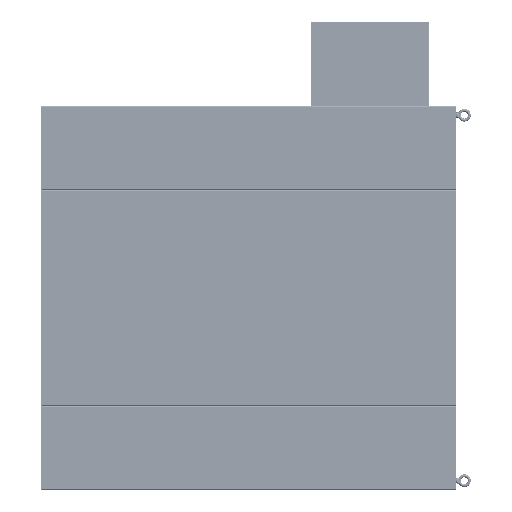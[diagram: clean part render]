
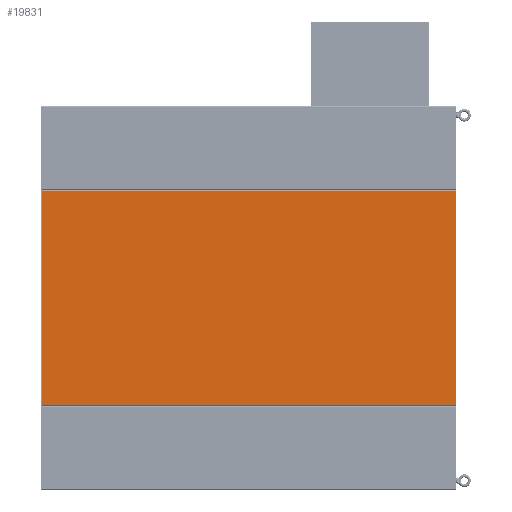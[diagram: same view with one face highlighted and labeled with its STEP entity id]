
A CAD part, left-side view. The second image highlights one B-rep face of the part: STEP entity #19831.
In plain terms, the highlighted planar face has unit normal (-1, 0, 0) as drawn and (0, 0, -1) by its records, which use the part's own axes.
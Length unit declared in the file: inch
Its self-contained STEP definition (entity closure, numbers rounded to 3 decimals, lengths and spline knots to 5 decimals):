
#19367=DIRECTION('',(0.,-1.,0.));
#19368=VECTOR('',#19367,83.75);
#19369=CARTESIAN_POINT('',(-21.625,0.,-0.125));
#19370=LINE('',#19369,#19368);
#19382=DIRECTION('',(1.,0.,0.));
#19383=VECTOR('',#19382,43.25);
#19384=CARTESIAN_POINT('',(-21.625,-83.75,-0.125));
#19385=LINE('',#19384,#19383);
#19389=DIRECTION('',(-1.,0.,0.));
#19390=VECTOR('',#19389,43.25);
#19391=CARTESIAN_POINT('',(21.625,0.,-0.125));
#19392=LINE('',#19391,#19390);
#19425=DIRECTION('',(0.,1.,0.));
#19426=VECTOR('',#19425,83.75);
#19427=CARTESIAN_POINT('',(21.625,-83.75,-0.125));
#19428=LINE('',#19427,#19426);
#19632=CARTESIAN_POINT('',(21.625,0.,-0.125));
#19633=VERTEX_POINT('',#19632);
#19634=CARTESIAN_POINT('',(21.625,-83.75,-0.125));
#19635=VERTEX_POINT('',#19634);
#19648=CARTESIAN_POINT('',(-21.625,-83.75,-0.125));
#19649=VERTEX_POINT('',#19648);
#19650=CARTESIAN_POINT('',(-21.625,0.,-0.125));
#19651=VERTEX_POINT('',#19650);
#19817=CARTESIAN_POINT('',(0.,0.,-0.125));
#19818=DIRECTION('',(0.,0.,1.));
#19819=DIRECTION('',(1.,0.,0.));
#19820=AXIS2_PLACEMENT_3D('',#19817,#19818,#19819);
#19821=PLANE('',#19820);
#19822=ORIENTED_EDGE('',*,*,#19810,.T.);
#19824=ORIENTED_EDGE('',*,*,#19823,.T.);
#19826=ORIENTED_EDGE('',*,*,#19825,.T.);
#19828=ORIENTED_EDGE('',*,*,#19827,.T.);
#19829=EDGE_LOOP('',(#19822,#19824,#19826,#19828));
#19830=FACE_OUTER_BOUND('',#19829,.F.);
#19810=EDGE_CURVE('',#19651,#19649,#19370,.T.);
#19823=EDGE_CURVE('',#19649,#19635,#19385,.T.);
#19825=EDGE_CURVE('',#19635,#19633,#19428,.T.);
#19827=EDGE_CURVE('',#19633,#19651,#19392,.T.);
#19831=ADVANCED_FACE('',(#19830),#19821,.F.);
